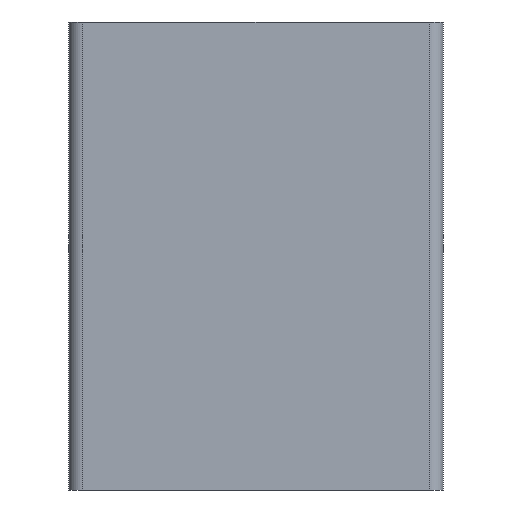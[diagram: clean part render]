
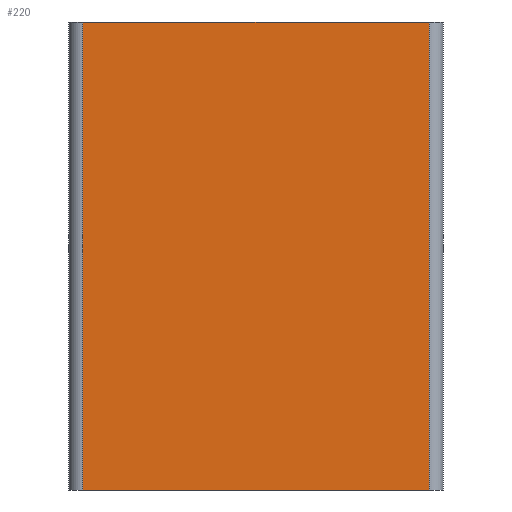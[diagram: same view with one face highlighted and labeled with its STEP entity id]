
A CAD part, left-side view. The second image highlights one B-rep face of the part: STEP entity #220.
In plain terms, the highlighted planar face has unit normal (-1, 0, 0).
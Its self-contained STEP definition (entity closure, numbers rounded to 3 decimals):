
#220=ADVANCED_FACE('',(#524),#525,.F.);
#524=FACE_OUTER_BOUND('',#911,.T.);
#525=PLANE('',#912);
#911=EDGE_LOOP('',(#1467,#1468,#1469,#1470));
#912=AXIS2_PLACEMENT_3D('',#1471,#1472,#1473);
#1467=ORIENTED_EDGE('',*,*,#2600,.T.);
#1468=ORIENTED_EDGE('',*,*,#2566,.F.);
#1469=ORIENTED_EDGE('',*,*,#2601,.F.);
#1470=ORIENTED_EDGE('',*,*,#2602,.T.);
#1471=CARTESIAN_POINT('',(0.,38.5,50.0));
#1472=DIRECTION('',(1.0,0.0,-0.0));
#1473=DIRECTION('',(0.0,0.0,1.0));
#2566=EDGE_CURVE('',#3160,#3155,#3162,.T.);
#2600=EDGE_CURVE('',#3218,#3155,#3219,.T.);
#2601=EDGE_CURVE('',#3220,#3160,#3221,.T.);
#2602=EDGE_CURVE('',#3220,#3218,#3222,.T.);
#3155=VERTEX_POINT('',#3980);
#3160=VERTEX_POINT('',#3986);
#3162=LINE('',#3988,#3989);
#3218=VERTEX_POINT('',#4064);
#3219=LINE('',#4065,#4066);
#3220=VERTEX_POINT('',#4067);
#3221=LINE('',#4068,#4069);
#3222=LINE('',#4070,#4071);
#3980=CARTESIAN_POINT('',(0.,1.5,0.0));
#3986=CARTESIAN_POINT('',(0.,1.5,50.0));
#3988=CARTESIAN_POINT('',(0.,1.5,50.0));
#3989=VECTOR('',#4824,1.0);
#4064=CARTESIAN_POINT('',(0.,38.5,0.0));
#4065=CARTESIAN_POINT('',(0.,38.5,0.0));
#4066=VECTOR('',#4862,1.0);
#4067=CARTESIAN_POINT('',(0.,38.5,50.0));
#4068=CARTESIAN_POINT('',(0.,38.5,50.0));
#4069=VECTOR('',#4863,1.0);
#4070=CARTESIAN_POINT('',(0.,38.5,50.0));
#4071=VECTOR('',#4864,1.0);
#4824=DIRECTION('',(0.0,0.0,-1.0));
#4862=DIRECTION('',(0.0,-1.0,0.0));
#4863=DIRECTION('',(0.0,-1.0,0.0));
#4864=DIRECTION('',(0.0,0.0,-1.0));
